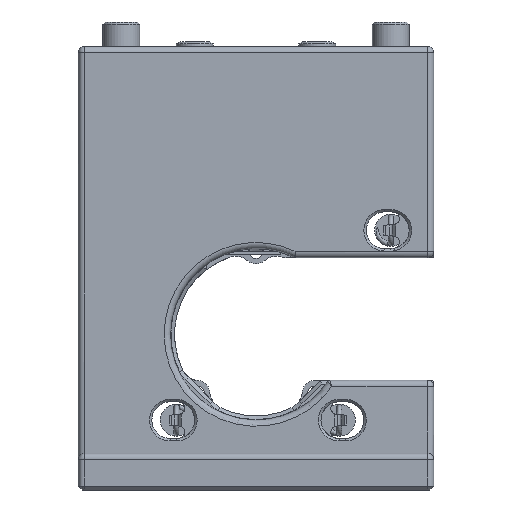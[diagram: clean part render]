
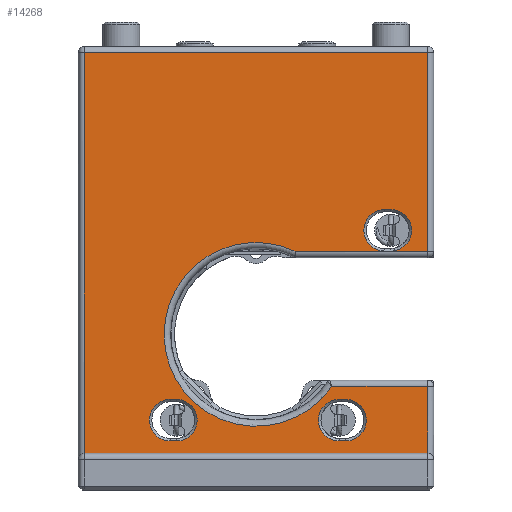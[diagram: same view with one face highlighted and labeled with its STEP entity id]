
A CAD part, left-side view. The second image highlights one B-rep face of the part: STEP entity #14268.
In plain terms, the highlighted planar face has unit normal (-1, 0, 0).
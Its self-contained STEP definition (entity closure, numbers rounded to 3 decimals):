
#570=LINE('',#21449,#1902);
#1028=LINE('',#22954,#2360);
#1036=LINE('',#23022,#2368);
#1037=LINE('',#23027,#2369);
#1041=LINE('',#23043,#2373);
#1135=LINE('',#23436,#2467);
#1138=LINE('',#23444,#2470);
#1143=LINE('',#23465,#2475);
#1146=LINE('',#23473,#2478);
#1148=LINE('',#23479,#2480);
#1149=LINE('',#23482,#2481);
#1150=LINE('',#23487,#2482);
#1151=LINE('',#23490,#2483);
#1902=VECTOR('',#16779,10.);
#2360=VECTOR('',#17765,10.);
#2368=VECTOR('',#17873,10.);
#2369=VECTOR('',#17882,10.);
#2373=VECTOR('',#17900,10.);
#2467=VECTOR('',#18260,10.);
#2470=VECTOR('',#18269,10.);
#2475=VECTOR('',#18290,10.);
#2478=VECTOR('',#18299,10.);
#2480=VECTOR('',#18307,10.);
#2481=VECTOR('',#18310,10.);
#2482=VECTOR('',#18313,10.);
#2483=VECTOR('',#18316,10.);
#3361=FACE_BOUND('',#4678,.T.);
#3362=FACE_BOUND('',#4679,.T.);
#3363=FACE_BOUND('',#4680,.T.);
#3788=FACE_OUTER_BOUND('',#4677,.T.);
#4677=EDGE_LOOP('',(#11040,#11041,#11042,#11043,#11044,#11045,#11046,#11047));
#4678=EDGE_LOOP('',(#11048,#11049,#11050,#11051));
#4679=EDGE_LOOP('',(#11052,#11053,#11054,#11055,#11056,#11057));
#4680=EDGE_LOOP('',(#11058,#11059,#11060,#11061));
#5431=CIRCLE('',#15455,1.7);
#5432=CIRCLE('',#15458,1.7);
#5433=CIRCLE('',#15461,1.7);
#5434=CIRCLE('',#15463,0.7);
#5436=CIRCLE('',#15469,1.7);
#5437=CIRCLE('',#15472,1.7);
#5438=CIRCLE('',#15474,7.5);
#5439=CIRCLE('',#15475,1.7);
#5440=CIRCLE('',#15476,1.7);
#5961=VERTEX_POINT('',#21445);
#5963=VERTEX_POINT('',#21448);
#6384=VERTEX_POINT('',#22950);
#6385=VERTEX_POINT('',#22952);
#6395=VERTEX_POINT('',#23020);
#6400=VERTEX_POINT('',#23041);
#6485=VERTEX_POINT('',#23426);
#6486=VERTEX_POINT('',#23427);
#6487=VERTEX_POINT('',#23435);
#6488=VERTEX_POINT('',#23439);
#6489=VERTEX_POINT('',#23443);
#6490=VERTEX_POINT('',#23447);
#6492=VERTEX_POINT('',#23462);
#6493=VERTEX_POINT('',#23464);
#6494=VERTEX_POINT('',#23468);
#6495=VERTEX_POINT('',#23472);
#6496=VERTEX_POINT('',#23478);
#6497=VERTEX_POINT('',#23480);
#6498=VERTEX_POINT('',#23483);
#6499=VERTEX_POINT('',#23484);
#6500=VERTEX_POINT('',#23486);
#6501=VERTEX_POINT('',#23488);
#7344=EDGE_CURVE('',#5961,#5963,#570,.T.);
#7930=EDGE_CURVE('',#6385,#6384,#1028,.T.);
#7967=EDGE_CURVE('',#6395,#6385,#1036,.T.);
#7969=EDGE_CURVE('',#5963,#6395,#1037,.T.);
#7977=EDGE_CURVE('',#6400,#5961,#1041,.T.);
#8141=EDGE_CURVE('',#6485,#6486,#5431,.T.);
#8144=EDGE_CURVE('',#6486,#6487,#1135,.T.);
#8146=EDGE_CURVE('',#6487,#6488,#5432,.T.);
#8148=EDGE_CURVE('',#6488,#6489,#1138,.T.);
#8150=EDGE_CURVE('',#6489,#6490,#5433,.T.);
#8152=EDGE_CURVE('',#6490,#6485,#5434,.T.);
#8157=EDGE_CURVE('',#6492,#6493,#1143,.T.);
#8159=EDGE_CURVE('',#6493,#6494,#5436,.T.);
#8161=EDGE_CURVE('',#6494,#6495,#1146,.T.);
#8163=EDGE_CURVE('',#6495,#6492,#5437,.T.);
#8164=EDGE_CURVE('',#6496,#6400,#1148,.T.);
#8165=EDGE_CURVE('',#6497,#6496,#5438,.T.);
#8166=EDGE_CURVE('',#6384,#6497,#1149,.T.);
#8167=EDGE_CURVE('',#6498,#6499,#5439,.T.);
#8168=EDGE_CURVE('',#6500,#6498,#1150,.T.);
#8169=EDGE_CURVE('',#6501,#6500,#5440,.T.);
#8170=EDGE_CURVE('',#6499,#6501,#1151,.T.);
#11040=ORIENTED_EDGE('',*,*,#7977,.F.);
#11041=ORIENTED_EDGE('',*,*,#8164,.F.);
#11042=ORIENTED_EDGE('',*,*,#8165,.F.);
#11043=ORIENTED_EDGE('',*,*,#8166,.F.);
#11044=ORIENTED_EDGE('',*,*,#7930,.F.);
#11045=ORIENTED_EDGE('',*,*,#7967,.F.);
#11046=ORIENTED_EDGE('',*,*,#7969,.F.);
#11047=ORIENTED_EDGE('',*,*,#7344,.F.);
#11048=ORIENTED_EDGE('',*,*,#8163,.F.);
#11049=ORIENTED_EDGE('',*,*,#8161,.F.);
#11050=ORIENTED_EDGE('',*,*,#8159,.F.);
#11051=ORIENTED_EDGE('',*,*,#8157,.F.);
#11052=ORIENTED_EDGE('',*,*,#8152,.F.);
#11053=ORIENTED_EDGE('',*,*,#8150,.F.);
#11054=ORIENTED_EDGE('',*,*,#8148,.F.);
#11055=ORIENTED_EDGE('',*,*,#8146,.F.);
#11056=ORIENTED_EDGE('',*,*,#8144,.F.);
#11057=ORIENTED_EDGE('',*,*,#8141,.F.);
#11058=ORIENTED_EDGE('',*,*,#8167,.F.);
#11059=ORIENTED_EDGE('',*,*,#8168,.F.);
#11060=ORIENTED_EDGE('',*,*,#8169,.F.);
#11061=ORIENTED_EDGE('',*,*,#8170,.F.);
#13693=PLANE('',#15473);
#14268=ADVANCED_FACE('',(#3788,#3361,#3362,#3363),#13693,.F.);
#15455=AXIS2_PLACEMENT_3D('',#23428,#18255,#18256);
#15458=AXIS2_PLACEMENT_3D('',#23440,#18264,#18265);
#15461=AXIS2_PLACEMENT_3D('',#23448,#18273,#18274);
#15463=AXIS2_PLACEMENT_3D('',#23454,#18277,#18278);
#15469=AXIS2_PLACEMENT_3D('',#23469,#18294,#18295);
#15472=AXIS2_PLACEMENT_3D('',#23476,#18303,#18304);
#15473=AXIS2_PLACEMENT_3D('',#23477,#18305,#18306);
#15474=AXIS2_PLACEMENT_3D('',#23481,#18308,#18309);
#15475=AXIS2_PLACEMENT_3D('',#23485,#18311,#18312);
#15476=AXIS2_PLACEMENT_3D('',#23489,#18314,#18315);
#16779=DIRECTION('',(0.,1.,0.));
#17765=DIRECTION('',(0.,0.,-1.));
#17873=DIRECTION('',(0.,-1.,0.));
#17882=DIRECTION('',(0.,0.,1.));
#17900=DIRECTION('',(0.,0.,-1.));
#18255=DIRECTION('center_axis',(-1.,0.,0.));
#18256=DIRECTION('ref_axis',(0.,0.,1.));
#18260=DIRECTION('',(0.,1.,0.));
#18264=DIRECTION('center_axis',(-1.,0.,0.));
#18265=DIRECTION('ref_axis',(0.,0.,1.));
#18269=DIRECTION('',(0.,-1.,0.));
#18273=DIRECTION('center_axis',(-1.,0.,0.));
#18274=DIRECTION('ref_axis',(0.,0.,-1.));
#18277=DIRECTION('center_axis',(-1.,0.,0.));
#18278=DIRECTION('ref_axis',(0.,0.,-1.));
#18290=DIRECTION('',(0.,1.,0.));
#18294=DIRECTION('center_axis',(-1.,0.,0.));
#18295=DIRECTION('ref_axis',(0.,0.,1.));
#18299=DIRECTION('',(0.,-1.,0.));
#18303=DIRECTION('center_axis',(-1.,0.,0.));
#18304=DIRECTION('ref_axis',(0.,0.,-1.));
#18305=DIRECTION('center_axis',(1.,0.,0.));
#18306=DIRECTION('ref_axis',(0.,0.,-1.));
#18307=DIRECTION('',(0.,-1.,0.));
#18308=DIRECTION('center_axis',(-1.,0.,0.));
#18309=DIRECTION('ref_axis',(0.,0.964,-0.266));
#18310=DIRECTION('',(0.,1.,0.));
#18311=DIRECTION('center_axis',(-1.,0.,0.));
#18312=DIRECTION('ref_axis',(0.,0.,-1.));
#18313=DIRECTION('',(0.,-1.,0.));
#18314=DIRECTION('center_axis',(-1.,0.,0.));
#18315=DIRECTION('ref_axis',(0.,0.,1.));
#18316=DIRECTION('',(0.,1.,0.));
#21445=CARTESIAN_POINT('',(-4.5,-14.,-9.7));
#21448=CARTESIAN_POINT('',(-4.5,14.,-9.7));
#21449=CARTESIAN_POINT('',(-4.5,0.,-9.7));
#22950=CARTESIAN_POINT('',(-4.5,-14.,6.75));
#22952=CARTESIAN_POINT('',(-4.5,-14.,23.));
#22954=CARTESIAN_POINT('',(-4.5,-14.,23.5));
#23020=CARTESIAN_POINT('',(-4.5,14.,23.));
#23022=CARTESIAN_POINT('',(-4.5,7.25,23.));
#23027=CARTESIAN_POINT('',(-4.5,14.,5.4));
#23041=CARTESIAN_POINT('',(-4.5,-14.,-4.25));
#23043=CARTESIAN_POINT('',(-4.5,-14.,23.5));
#23426=CARTESIAN_POINT('',(-4.5,-11.361,6.839));
#23427=CARTESIAN_POINT('',(-4.5,-11.,10.2));
#23428=CARTESIAN_POINT('Origin',(-4.5,-11.,8.5));
#23435=CARTESIAN_POINT('',(-4.5,-10.5,10.2));
#23436=CARTESIAN_POINT('',(-4.5,-5.25,10.2));
#23439=CARTESIAN_POINT('',(-4.5,-10.5,6.8));
#23440=CARTESIAN_POINT('Origin',(-4.5,-10.5,8.5));
#23443=CARTESIAN_POINT('',(-4.5,-11.,6.8));
#23444=CARTESIAN_POINT('',(-4.5,-5.5,6.8));
#23447=CARTESIAN_POINT('',(-4.5,-11.319,6.83));
#23448=CARTESIAN_POINT('Origin',(-4.5,-11.,8.5));
#23454=CARTESIAN_POINT('Origin',(-4.5,-11.2,7.52));
#23462=CARTESIAN_POINT('',(-4.5,6.5,-5.3));
#23464=CARTESIAN_POINT('',(-4.5,7.,-5.3));
#23465=CARTESIAN_POINT('',(-4.5,3.5,-5.3));
#23468=CARTESIAN_POINT('',(-4.5,7.,-8.7));
#23469=CARTESIAN_POINT('Origin',(-4.5,7.,-7.));
#23472=CARTESIAN_POINT('',(-4.5,6.5,-8.7));
#23473=CARTESIAN_POINT('',(-4.5,3.25,-8.7));
#23476=CARTESIAN_POINT('Origin',(-4.5,6.5,-7.));
#23477=CARTESIAN_POINT('Origin',(-4.5,0.,23.5));
#23478=CARTESIAN_POINT('',(-4.5,-6.18,-4.25));
#23479=CARTESIAN_POINT('',(-4.5,0.,-4.25));
#23480=CARTESIAN_POINT('',(-4.5,-3.269,6.75));
#23481=CARTESIAN_POINT('Origin',(-4.5,0.,0.));
#23482=CARTESIAN_POINT('',(-4.5,-7.25,6.75));
#23483=CARTESIAN_POINT('',(-4.5,-7.3,-8.7));
#23484=CARTESIAN_POINT('',(-4.5,-7.502,-5.312));
#23485=CARTESIAN_POINT('Origin',(-4.5,-7.3,-7.));
#23486=CARTESIAN_POINT('',(-4.5,-6.8,-8.7));
#23487=CARTESIAN_POINT('',(-4.5,-3.4,-8.7));
#23488=CARTESIAN_POINT('',(-4.5,-7.002,-5.312));
#23489=CARTESIAN_POINT('Origin',(-4.5,-6.8,-7.));
#23490=CARTESIAN_POINT('',(-4.5,-4.656,-5.312));
